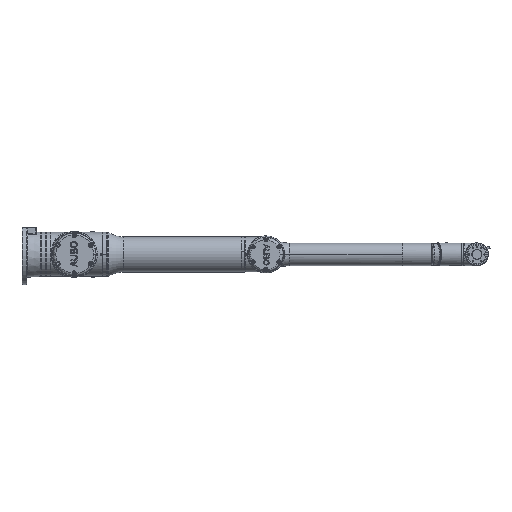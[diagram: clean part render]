
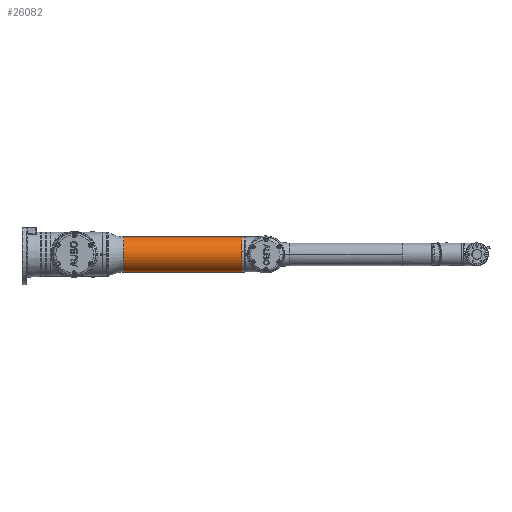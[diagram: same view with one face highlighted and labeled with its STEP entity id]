
A CAD part, front view. The second image highlights one B-rep face of the part: STEP entity #26082.
In plain terms, the highlighted cylindrical face has radius 92 mm (diameter 184 mm), a partial arc.
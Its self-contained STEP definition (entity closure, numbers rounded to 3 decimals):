
#11203 = CARTESIAN_POINT ( 'NONE',  ( -33.951, 234.964, -24.738 ) ) ;
#19245 = CARTESIAN_POINT ( 'NONE',  ( -33.951, 108.646, 67.262 ) ) ;
#21581 = VECTOR ( 'NONE', #122916, 1000. ) ;
#23947 = DIRECTION ( 'NONE',  ( 0., 0., -1. ) ) ;
#26082 = ADVANCED_FACE ( 'NONE', ( #118138 ), #120954, .T. ) ;
#26108 = CARTESIAN_POINT ( 'NONE',  ( -33.951, 850.846, -116.738 ) ) ;
#36249 = CARTESIAN_POINT ( 'NONE',  ( -33.951, 108.646, -116.738 ) ) ;
#38084 = EDGE_LOOP ( 'NONE', ( #250495, #105771, #238845, #193132 ) ) ;
#46658 = DIRECTION ( 'NONE',  ( 0., -1., 0. ) ) ;
#50349 = EDGE_CURVE ( 'NONE', #142562, #254405, #231026, .T. ) ;
#52475 = DIRECTION ( 'NONE',  ( 0., 0., -1. ) ) ;
#54166 = DIRECTION ( 'NONE',  ( 0., 0., -1. ) ) ;
#58071 = DIRECTION ( 'NONE',  ( 0., 1., 0. ) ) ;
#75255 = CARTESIAN_POINT ( 'NONE',  ( -33.951, 850.846, 67.262 ) ) ;
#95817 = AXIS2_PLACEMENT_3D ( 'NONE', #203509, #183566, #54166 ) ;
#105771 = ORIENTED_EDGE ( 'NONE', *, *, #210974, .T. ) ;
#107400 = DIRECTION ( 'NONE',  ( 0., 1., 0. ) ) ;
#115923 = CARTESIAN_POINT ( 'NONE',  ( -33.951, 234.964, -116.738 ) ) ;
#118138 = FACE_OUTER_BOUND ( 'NONE', #38084, .T. ) ;
#120954 = CYLINDRICAL_SURFACE ( 'NONE', #95817, 92. ) ;
#122916 = DIRECTION ( 'NONE',  ( 0., 1., 0. ) ) ;
#124023 = CARTESIAN_POINT ( 'NONE',  ( -33.951, 234.964, 67.262 ) ) ;
#127296 = LINE ( 'NONE', #19245, #181003 ) ;
#142562 = VERTEX_POINT ( 'NONE', #115923 ) ;
#155543 = CIRCLE ( 'NONE', #187111, 92. ) ;
#159203 = EDGE_CURVE ( 'NONE', #238468, #254405, #155543, .T. ) ;
#174225 = CIRCLE ( 'NONE', #278783, 92. ) ;
#181003 = VECTOR ( 'NONE', #107400, 1000. ) ;
#183566 = DIRECTION ( 'NONE',  ( 0., 1., 0. ) ) ;
#185926 = VERTEX_POINT ( 'NONE', #124023 ) ;
#187111 = AXIS2_PLACEMENT_3D ( 'NONE', #218741, #46658, #23947 ) ;
#189209 = EDGE_CURVE ( 'NONE', #142562, #185926, #174225, .T. ) ;
#193132 = ORIENTED_EDGE ( 'NONE', *, *, #50349, .F. ) ;
#203509 = CARTESIAN_POINT ( 'NONE',  ( -33.951, 108.646, -24.738 ) ) ;
#210974 = EDGE_CURVE ( 'NONE', #185926, #238468, #127296, .T. ) ;
#218741 = CARTESIAN_POINT ( 'NONE',  ( -33.951, 850.846, -24.738 ) ) ;
#231026 = LINE ( 'NONE', #36249, #21581 ) ;
#238468 = VERTEX_POINT ( 'NONE', #75255 ) ;
#238845 = ORIENTED_EDGE ( 'NONE', *, *, #159203, .T. ) ;
#250495 = ORIENTED_EDGE ( 'NONE', *, *, #189209, .T. ) ;
#254405 = VERTEX_POINT ( 'NONE', #26108 ) ;
#278783 = AXIS2_PLACEMENT_3D ( 'NONE', #11203, #58071, #52475 ) ;
